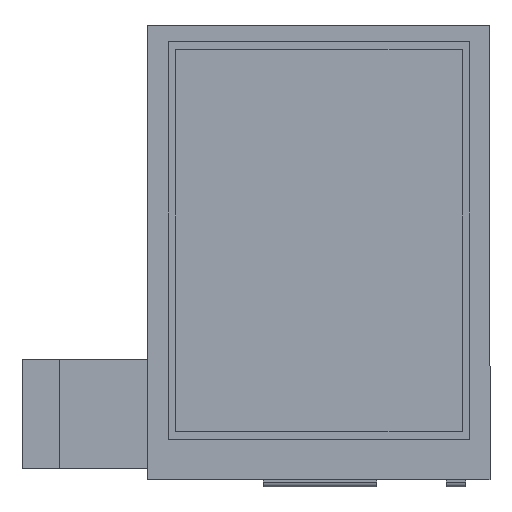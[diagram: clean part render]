
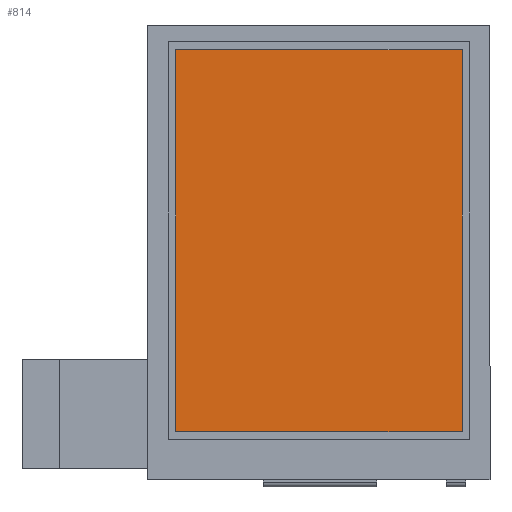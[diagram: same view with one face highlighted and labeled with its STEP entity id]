
A CAD part, top view. The second image highlights one B-rep face of the part: STEP entity #814.
In plain terms, the highlighted planar face has unit normal (0, 0, 1).
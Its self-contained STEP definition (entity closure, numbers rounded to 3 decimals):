
#490 = LINE ( 'NONE', #6426, #3646 ) ;
#788 = ORIENTED_EDGE ( 'NONE', *, *, #3065, .F. ) ;
#814 = ADVANCED_FACE ( 'NONE', ( #1041 ), #4713, .T. ) ;
#866 = EDGE_CURVE ( 'NONE', #4053, #2187, #6965, .T. ) ;
#889 = ORIENTED_EDGE ( 'NONE', *, *, #3923, .F. ) ;
#934 = LINE ( 'NONE', #3006, #7034 ) ;
#970 = DIRECTION ( 'NONE',  ( 0., 1., 0. ) ) ;
#1041 = FACE_OUTER_BOUND ( 'NONE', #1251, .T. ) ;
#1117 = CARTESIAN_POINT ( 'NONE',  ( 26.785, -35.71, 3.1 ) ) ;
#1251 = EDGE_LOOP ( 'NONE', ( #788, #889, #1819, #6874 ) ) ;
#1502 = DIRECTION ( 'NONE',  ( 1., 0., 0. ) ) ;
#1521 = EDGE_CURVE ( 'NONE', #5588, #4053, #490, .T. ) ;
#1819 = ORIENTED_EDGE ( 'NONE', *, *, #866, .F. ) ;
#2016 = DIRECTION ( 'NONE',  ( 1., 0., 0. ) ) ;
#2086 = CARTESIAN_POINT ( 'NONE',  ( -26.785, 0., 3.1 ) ) ;
#2187 = VERTEX_POINT ( 'NONE', #1117 ) ;
#3005 = VERTEX_POINT ( 'NONE', #5264 ) ;
#3006 = CARTESIAN_POINT ( 'NONE',  ( 0., -35.71, 3.1 ) ) ;
#3065 = EDGE_CURVE ( 'NONE', #3005, #5588, #6546, .T. ) ;
#3646 = VECTOR ( 'NONE', #2016, 1000. ) ;
#3688 = CARTESIAN_POINT ( 'NONE',  ( 26.785, 35.71, 3.1 ) ) ;
#3923 = EDGE_CURVE ( 'NONE', #2187, #3005, #934, .T. ) ;
#4049 = CARTESIAN_POINT ( 'NONE',  ( 26.785, 0., 3.1 ) ) ;
#4053 = VERTEX_POINT ( 'NONE', #3688 ) ;
#4239 = AXIS2_PLACEMENT_3D ( 'NONE', #6417, #5311, #1502 ) ;
#4623 = VECTOR ( 'NONE', #5200, 1000. ) ;
#4713 = PLANE ( 'NONE',  #4239 ) ;
#5200 = DIRECTION ( 'NONE',  ( 0., -1., 0. ) ) ;
#5264 = CARTESIAN_POINT ( 'NONE',  ( -26.785, -35.71, 3.1 ) ) ;
#5311 = DIRECTION ( 'NONE',  ( 0., 0., 1. ) ) ;
#5588 = VERTEX_POINT ( 'NONE', #6217 ) ;
#5726 = DIRECTION ( 'NONE',  ( -1., 0., 0. ) ) ;
#5855 = VECTOR ( 'NONE', #970, 1000. ) ;
#6217 = CARTESIAN_POINT ( 'NONE',  ( -26.785, 35.71, 3.1 ) ) ;
#6417 = CARTESIAN_POINT ( 'NONE',  ( 0., 0., 3.1 ) ) ;
#6426 = CARTESIAN_POINT ( 'NONE',  ( 0., 35.71, 3.1 ) ) ;
#6546 = LINE ( 'NONE', #2086, #5855 ) ;
#6874 = ORIENTED_EDGE ( 'NONE', *, *, #1521, .F. ) ;
#6965 = LINE ( 'NONE', #4049, #4623 ) ;
#7034 = VECTOR ( 'NONE', #5726, 1000. ) ;
